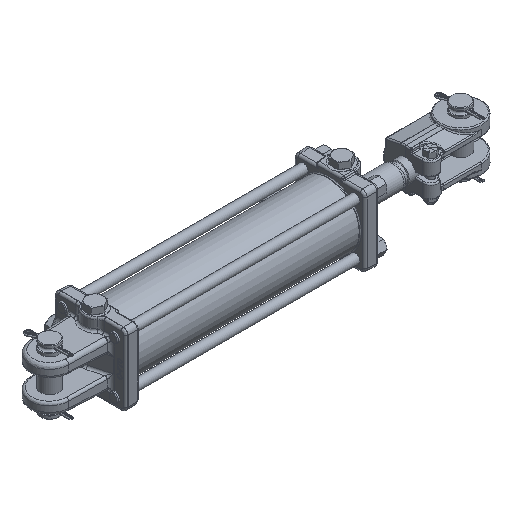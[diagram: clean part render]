
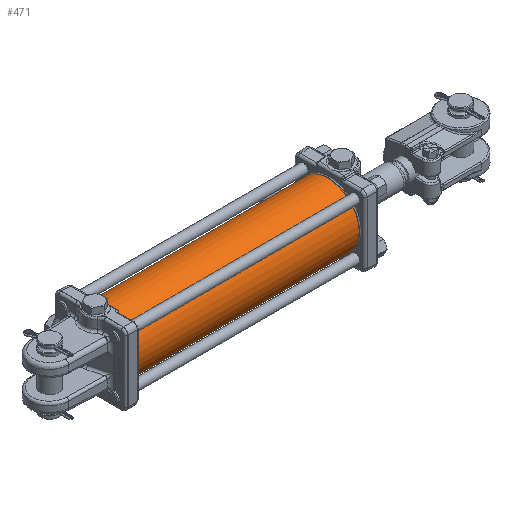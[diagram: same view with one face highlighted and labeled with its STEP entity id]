
A CAD part, isometric view. The second image highlights one B-rep face of the part: STEP entity #471.
In plain terms, the highlighted cylindrical face has radius 42.862 mm (diameter 85.725 mm), a full revolution.
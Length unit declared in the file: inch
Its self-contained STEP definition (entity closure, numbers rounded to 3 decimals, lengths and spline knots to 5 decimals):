
#210=CARTESIAN_POINT('',(-0.842,1.68662,0.0545));
#211=VERTEX_POINT('',#210);
#212=CARTESIAN_POINT('',(-0.842,1.68662,0.0545));
#213=CARTESIAN_POINT('',(-0.84884,1.68662,0.0545));
#214=CARTESIAN_POINT('',(-0.85614,1.68667,0.05313));
#215=CARTESIAN_POINT('',(-0.86957,1.68683,0.04757));
#216=CARTESIAN_POINT('',(-0.8757,1.68695,0.04338));
#217=CARTESIAN_POINT('',(-0.88538,1.68717,0.0337));
#218=CARTESIAN_POINT('',(-0.88957,1.68729,0.02757));
#219=CARTESIAN_POINT('',(-0.89513,1.68745,0.01414));
#220=CARTESIAN_POINT('',(-0.8965,1.6875,0.00684));
#221=CARTESIAN_POINT('',(-0.8965,1.6875,-0.00684));
#222=CARTESIAN_POINT('',(-0.89513,1.68745,-0.01414));
#223=CARTESIAN_POINT('',(-0.88957,1.68729,-0.02757));
#224=CARTESIAN_POINT('',(-0.88538,1.68717,-0.0337));
#225=CARTESIAN_POINT('',(-0.8757,1.68695,-0.04338));
#226=CARTESIAN_POINT('',(-0.86957,1.68683,-0.04757));
#227=CARTESIAN_POINT('',(-0.85614,1.68667,-0.05313));
#228=CARTESIAN_POINT('',(-0.84884,1.68662,-0.0545));
#229=CARTESIAN_POINT('',(-0.83516,1.68662,-0.0545));
#230=CARTESIAN_POINT('',(-0.82786,1.68667,-0.05313));
#231=CARTESIAN_POINT('',(-0.81443,1.68683,-0.04757));
#232=CARTESIAN_POINT('',(-0.8083,1.68695,-0.04338));
#233=CARTESIAN_POINT('',(-0.79862,1.68717,-0.0337));
#234=CARTESIAN_POINT('',(-0.79443,1.68729,-0.02757));
#235=CARTESIAN_POINT('',(-0.78887,1.68745,-0.01414));
#236=CARTESIAN_POINT('',(-0.7875,1.6875,-0.00684));
#237=CARTESIAN_POINT('',(-0.7875,1.6875,0.00684));
#238=CARTESIAN_POINT('',(-0.78887,1.68745,0.01414));
#239=CARTESIAN_POINT('',(-0.79443,1.68729,0.02757));
#240=CARTESIAN_POINT('',(-0.79862,1.68717,0.0337));
#241=CARTESIAN_POINT('',(-0.8083,1.68695,0.04338));
#242=CARTESIAN_POINT('',(-0.81443,1.68683,0.04757));
#243=CARTESIAN_POINT('',(-0.82786,1.68667,0.05313));
#244=CARTESIAN_POINT('',(-0.83516,1.68662,0.0545));
#245=CARTESIAN_POINT('',(-0.842,1.68662,0.0545));
#246=B_SPLINE_CURVE_WITH_KNOTS('',3,(#212,#213,#214,#215,#216,#217,#218,#219,#220,#221,#222,#223,#224,#225,#226,#227,#228,#229,#230,#231,#232,#233,#234,#235,#236,#237,#238,#239,#240,#241,#242,#243,#244,#245),.UNSPECIFIED.,.T.,.U.,(4,2,2,2,2,2,2,2,2,2,2,2,2,2,2,2,4),(0.0,0.05215,0.1043,0.15645,0.20859,0.26074,0.31289,0.36504,0.41719,0.46934,0.52149,0.57363,0.62578,0.67793,0.73008,0.78223,0.83438),.UNSPECIFIED.);
#247=EDGE_CURVE('',#211,#211,#246,.T.);
#298=CARTESIAN_POINT('',(-1.222,1.68722,0.031));
#299=VERTEX_POINT('',#298);
#300=CARTESIAN_POINT('',(-1.222,1.68722,0.031));
#301=CARTESIAN_POINT('',(-1.22589,1.68722,0.031));
#302=CARTESIAN_POINT('',(-1.23004,1.68723,0.03022));
#303=CARTESIAN_POINT('',(-1.23768,1.68728,0.02706));
#304=CARTESIAN_POINT('',(-1.24117,1.68732,0.02467));
#305=CARTESIAN_POINT('',(-1.24667,1.68739,0.01917));
#306=CARTESIAN_POINT('',(-1.24906,1.68743,0.01568));
#307=CARTESIAN_POINT('',(-1.25222,1.68749,0.00804));
#308=CARTESIAN_POINT('',(-1.253,1.6875,0.00389));
#309=CARTESIAN_POINT('',(-1.253,1.6875,-0.00389));
#310=CARTESIAN_POINT('',(-1.25222,1.68749,-0.00804));
#311=CARTESIAN_POINT('',(-1.24906,1.68743,-0.01568));
#312=CARTESIAN_POINT('',(-1.24667,1.68739,-0.01917));
#313=CARTESIAN_POINT('',(-1.24117,1.68732,-0.02467));
#314=CARTESIAN_POINT('',(-1.23768,1.68728,-0.02706));
#315=CARTESIAN_POINT('',(-1.23004,1.68723,-0.03022));
#316=CARTESIAN_POINT('',(-1.22589,1.68722,-0.031));
#317=CARTESIAN_POINT('',(-1.21811,1.68722,-0.031));
#318=CARTESIAN_POINT('',(-1.21396,1.68723,-0.03022));
#319=CARTESIAN_POINT('',(-1.20632,1.68728,-0.02706));
#320=CARTESIAN_POINT('',(-1.20283,1.68732,-0.02467));
#321=CARTESIAN_POINT('',(-1.19733,1.68739,-0.01917));
#322=CARTESIAN_POINT('',(-1.19494,1.68743,-0.01568));
#323=CARTESIAN_POINT('',(-1.19178,1.68749,-0.00804));
#324=CARTESIAN_POINT('',(-1.191,1.6875,-0.00389));
#325=CARTESIAN_POINT('',(-1.191,1.6875,0.00389));
#326=CARTESIAN_POINT('',(-1.19178,1.68749,0.00804));
#327=CARTESIAN_POINT('',(-1.19494,1.68743,0.01568));
#328=CARTESIAN_POINT('',(-1.19733,1.68739,0.01917));
#329=CARTESIAN_POINT('',(-1.20283,1.68732,0.02467));
#330=CARTESIAN_POINT('',(-1.20632,1.68728,0.02706));
#331=CARTESIAN_POINT('',(-1.21396,1.68723,0.03022));
#332=CARTESIAN_POINT('',(-1.21811,1.68722,0.031));
#333=CARTESIAN_POINT('',(-1.222,1.68722,0.031));
#334=B_SPLINE_CURVE_WITH_KNOTS('',3,(#300,#301,#302,#303,#304,#305,#306,#307,#308,#309,#310,#311,#312,#313,#314,#315,#316,#317,#318,#319,#320,#321,#322,#323,#324,#325,#326,#327,#328,#329,#330,#331,#332,#333),.UNSPECIFIED.,.T.,.U.,(4,2,2,2,2,2,2,2,2,2,2,2,2,2,2,2,4),(0.0,0.02966,0.05932,0.08898,0.11864,0.14831,0.17797,0.20763,0.23729,0.26695,0.29661,0.32627,0.35593,0.38559,0.41525,0.44492,0.47458),.UNSPECIFIED.);
#335=EDGE_CURVE('',#299,#299,#334,.T.);
#345=CARTESIAN_POINT('',(0.,1.6875,0.0));
#346=VERTEX_POINT('',#345);
#347=CARTESIAN_POINT('',(0.,0.0,0.0));
#348=DIRECTION('',(1.0,0.0,0.0));
#349=DIRECTION('',(0.0,1.0,0.0));
#350=AXIS2_PLACEMENT_3D('',#347,#348,#349);
#351=CIRCLE('',#350,1.6875);
#352=EDGE_CURVE('',#346,#346,#351,.T.);
#439=CARTESIAN_POINT('',(-12.093,1.6875,0.0));
#440=VERTEX_POINT('',#439);
#441=CARTESIAN_POINT('',(-12.093,0.0,0.0));
#442=DIRECTION('',(1.0,0.0,0.0));
#443=DIRECTION('',(0.0,1.0,0.0));
#444=AXIS2_PLACEMENT_3D('',#441,#442,#443);
#445=CIRCLE('',#444,1.6875);
#446=EDGE_CURVE('',#440,#440,#445,.T.);
#454=CARTESIAN_POINT('',(-6.0465,0.0,0.0));
#455=DIRECTION('',(1.0,0.0,0.0));
#456=DIRECTION('',(0.0,1.0,0.0));
#457=AXIS2_PLACEMENT_3D('',#454,#455,#456);
#458=CYLINDRICAL_SURFACE('',#457,1.6875);
#459=ORIENTED_EDGE('',*,*,#352,.F.);
#460=EDGE_LOOP('',(#459));
#461=FACE_OUTER_BOUND('',#460,.T.);
#462=ORIENTED_EDGE('',*,*,#247,.T.);
#463=EDGE_LOOP('',(#462));
#464=FACE_BOUND('',#463,.T.);
#465=ORIENTED_EDGE('',*,*,#335,.T.);
#466=EDGE_LOOP('',(#465));
#467=FACE_BOUND('',#466,.T.);
#468=ORIENTED_EDGE('',*,*,#446,.T.);
#469=EDGE_LOOP('',(#468));
#470=FACE_BOUND('',#469,.T.);
#471=ADVANCED_FACE('',(#461,#464,#467,#470),#458,.T.);
